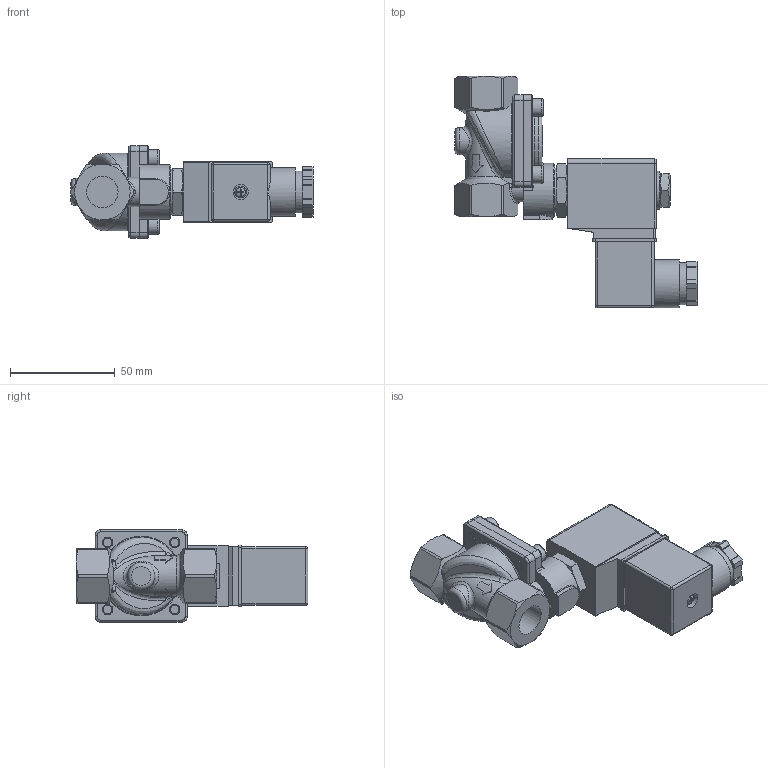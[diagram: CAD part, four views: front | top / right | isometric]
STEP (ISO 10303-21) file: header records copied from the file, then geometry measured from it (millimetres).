
FILE_DESCRIPTION((''),'2;1');
FILE_NAME('H:\Zeichnungen\STEP\MGMG2S12XX43010.stp','2009-10-09T08:55:50',('heidemann'),(''),'Autodesk Inventor 2010','Autodesk Inventor 2010','');
FILE_SCHEMA(('AUTOMOTIVE_DESIGN { 1 0 10303 214 1 1 1 1 }'));
Length unit declared in the file: millimetre
Products named in the file (10): MGMG2S12XX43010; GGG0010_15_0022; TA-N243-NC-30-2; SGXX43-S; DIN EN ISO 7045 H M3 x 30 - 4.8 - H; DIN 128 A10; DIN EN 28 675  (Feingewinde) M10 x 1; DIN 125-1  A Scheibe 41er Spule; DEQ0450_07_0025; DIN 912  (Regelgewinde) - ersetzt durch DIN EN ISO 4762 M5 x 10
Assembly tree (12 placements, depth 2):
  MGMG2S12XX43010
    GGG0010_15_0022
    TA-N243-NC-30-2
    SGXX43-S
    DIN EN ISO 7045 H M3 x 30 - 4.8 - H
    DIN 128 A10
    DIN EN 28 675  (Feingewinde) M10 x 1
    DIN 125-1  A Scheibe 41er Spule
    DEQ0450_07_0025
    DIN 912  (Regelgewinde) - ersetzt durch DIN EN ISO 4762 M5 x 10  x4
Bounding box: 115.45 x 110.5 x 44 mm (x, y, z)
Volume: 144463.5 mm3; surface area: 41102.4 mm2
Topology: 12 solids, 12 shells, 438 faces, 1076 edges, 683 vertices
Faces by surface type: plane 217, cylinder 102, cone 48, bspline 46, torus 20, sphere 5
Full cylindrical faces by diameter (mm): 2.729 x1, 3 x1, 5 x4, 5.5 x4, 7.3 x1, 7.8 x1, 8.5 x4, 9.73 x1, 10 x3, 11 x1, 13 x1, 13.4 x1, 14.4 x1, 14.75 x1, 17.75 x1, 20 x2, 20.5 x1, 21.8 x1, 22 x1, 23 x1, 26 x1
Entity records: 13610 total; most frequent: CARTESIAN_POINT 4484, ORIENTED_EDGE 1820, DIRECTION 1775, EDGE_CURVE 910, AXIS2_PLACEMENT_3D 680, VERTEX_POINT 613, EDGE_LOOP 499, VECTOR 415
